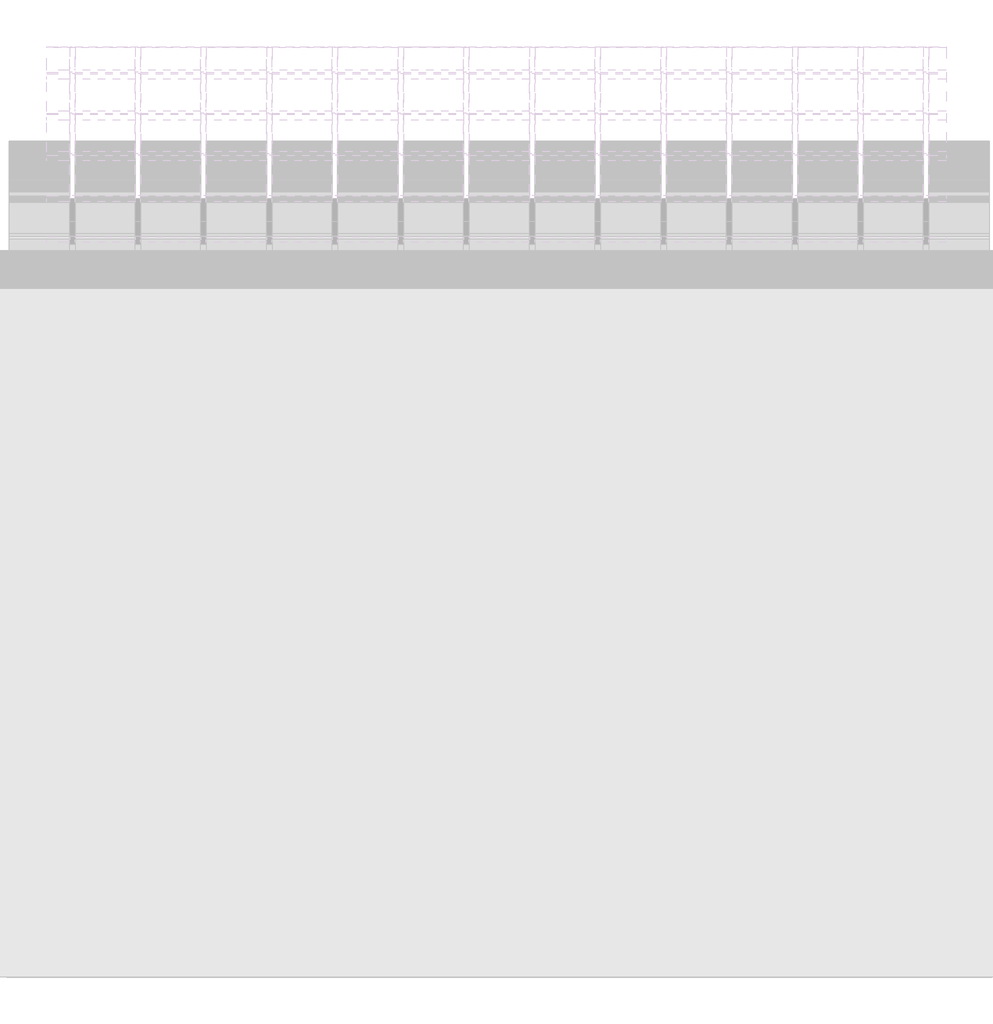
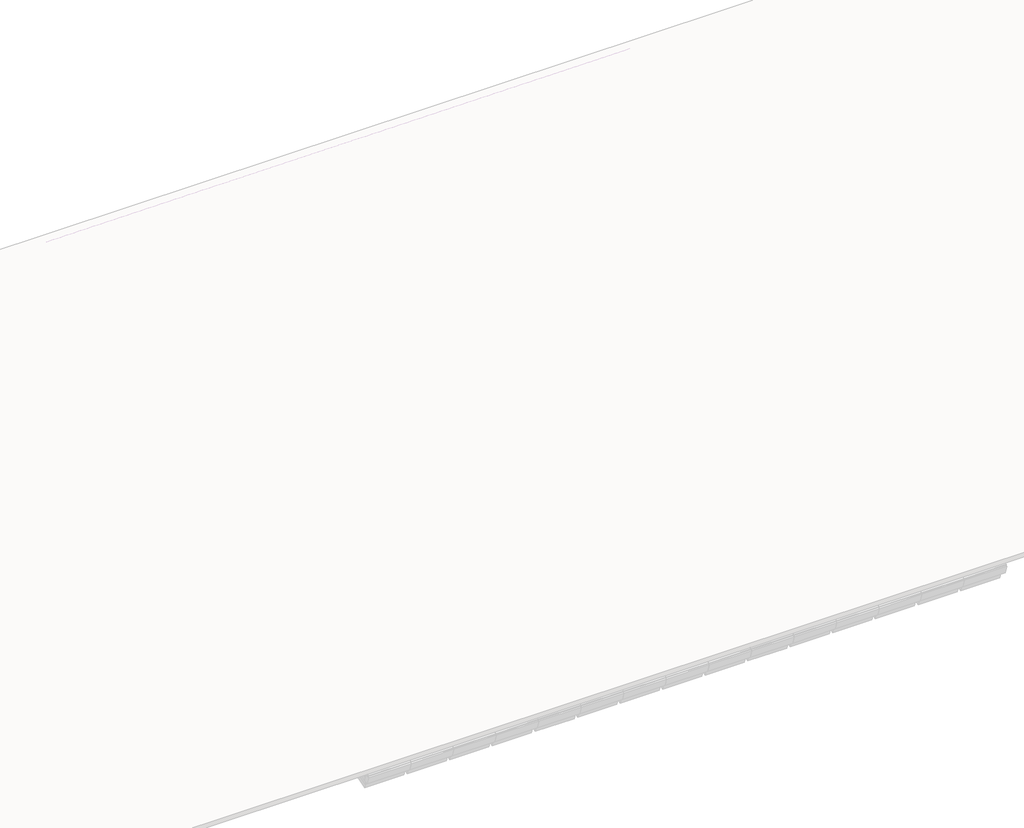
# One storey, part 26 of 57: 85 members, 39 plates.
"""IFC4 building model written with IfcOpenShell, lengths in millimetres."""

from ifc_helpers import new_model, si_unit, origin, place, context, project, spatial, transform, mapped, element, save
from components import rectangular_mullion_59984080, rectangular_mullion_2d2423ea, rectangular_mullion_caibro_e4384bba, rectangular_mullion_caibro_0993a3cf, rectangular_mullion_caibro_9bd7bc61, empty_system_panel_vazio_178faf58, empty_system_panel_vazio_2c78850d

model = new_model("IFC4")

# Units and contexts
model_context = context("Model", 3, world=origin())
ifc_project = project(units=[si_unit("LENGTHUNIT", "METRE", prefix="MILLI")], contexts=[model_context])

# Site, building, storey
site = spatial("IfcSite", under=ifc_project)
building = spatial("IfcBuilding", under=site)
storey = spatial("IfcBuildingStorey", under=building, Name="Nível 2", Elevation=4100.0)

# Members
placement = place(None, origin())
rectangular_mullion_shape = rectangular_mullion_59984080(model_context)
element("IfcMember", 1, ObjectType="Rectangular Mullion : Ripa", at=placement, inside=storey, context=model_context, shape_type="MappedRepresentation", body=[
    mapped(rectangular_mullion_shape, transform((18494.2138321, 8162.5832694, 3598.8241594), x_axis=(0.0, 0.9578262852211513, 0.2873478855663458), y_axis=(0.0, 0.2873478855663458, -0.9578262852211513), z_axis=(-1.0, 0.0, 0.0))),
])
element("IfcMember", 2, ObjectType="Rectangular Mullion : Ripa", at=placement, inside=storey, context=model_context, shape_type="MappedRepresentation", body=[
    mapped(rectangular_mullion_shape, transform((19091.2685885, 8162.5832694, 3598.8241594), x_axis=(0.0, 0.9578262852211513, 0.2873478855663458), y_axis=(0.0, 0.2873478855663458, -0.9578262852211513), z_axis=(-1.0, 0.0, 0.0))),
])
element("IfcMember", 3, ObjectType="Rectangular Mullion : Ripa", at=placement, inside=storey, context=model_context, shape_type="MappedRepresentation", body=[
    mapped(rectangular_mullion_shape, transform((19688.3233449, 8162.5832694, 3598.8241594), x_axis=(0.0, 0.9578262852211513, 0.2873478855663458), y_axis=(0.0, 0.2873478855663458, -0.9578262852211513), z_axis=(-1.0, 0.0, 0.0))),
])
element("IfcMember", 4, ObjectType="Rectangular Mullion : Ripa", at=placement, inside=storey, context=model_context, shape_type="MappedRepresentation", body=[
    mapped(rectangular_mullion_shape, transform((18494.2138321, 8532.7605281, 3709.877337), x_axis=(0.0, 0.9578262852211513, 0.2873478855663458), y_axis=(0.0, 0.2873478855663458, -0.9578262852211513), z_axis=(-1.0, 0.0, 0.0))),
])
element("IfcMember", 5, ObjectType="Rectangular Mullion : Ripa", at=placement, inside=storey, context=model_context, shape_type="MappedRepresentation", body=[
    mapped(rectangular_mullion_shape, transform((19091.2685885, 8532.7605281, 3709.877337), x_axis=(0.0, 0.9578262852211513, 0.2873478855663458), y_axis=(0.0, 0.2873478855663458, -0.9578262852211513), z_axis=(-1.0, 0.0, 0.0))),
])
element("IfcMember", 6, ObjectType="Rectangular Mullion : Ripa", at=placement, inside=storey, context=model_context, shape_type="MappedRepresentation", body=[
    mapped(rectangular_mullion_shape, transform((19688.3233449, 8532.7605281, 3709.877337), x_axis=(0.0, 0.9578262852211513, 0.2873478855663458), y_axis=(0.0, 0.2873478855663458, -0.9578262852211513), z_axis=(-1.0, 0.0, 0.0))),
])
element("IfcMember", 7, ObjectType="Rectangular Mullion : Ripa", at=placement, inside=storey, context=model_context, shape_type="MappedRepresentation", body=[
    mapped(rectangular_mullion_shape, transform((18494.2138321, 8902.9377868, 3820.9305146), x_axis=(0.0, 0.9578262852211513, 0.2873478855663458), y_axis=(0.0, 0.2873478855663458, -0.9578262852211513), z_axis=(-1.0, 0.0, 0.0))),
])
element("IfcMember", 8, ObjectType="Rectangular Mullion : Ripa", at=placement, inside=storey, context=model_context, shape_type="MappedRepresentation", body=[
    mapped(rectangular_mullion_shape, transform((19091.2685885, 8902.9377868, 3820.9305146), x_axis=(0.0, 0.9578262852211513, 0.2873478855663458), y_axis=(0.0, 0.2873478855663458, -0.9578262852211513), z_axis=(-1.0, 0.0, 0.0))),
])
element("IfcMember", 9, ObjectType="Rectangular Mullion : Ripa", at=placement, inside=storey, context=model_context, shape_type="MappedRepresentation", body=[
    mapped(rectangular_mullion_shape, transform((19688.3233449, 8902.9377868, 3820.9305146), x_axis=(0.0, 0.9578262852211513, 0.2873478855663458), y_axis=(0.0, 0.2873478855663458, -0.9578262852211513), z_axis=(-1.0, 0.0, 0.0))),
])
element("IfcMember", 10, ObjectType="Rectangular Mullion : Ripa", at=placement, inside=storey, context=model_context, shape_type="MappedRepresentation", body=[
    mapped(rectangular_mullion_shape, transform((18494.2138321, 9273.1150454, 3931.9836922), x_axis=(0.0, 0.9578262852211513, 0.2873478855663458), y_axis=(0.0, 0.2873478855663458, -0.9578262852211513), z_axis=(-1.0, 0.0, 0.0))),
])
element("IfcMember", 11, ObjectType="Rectangular Mullion : Ripa", at=placement, inside=storey, context=model_context, shape_type="MappedRepresentation", body=[
    mapped(rectangular_mullion_shape, transform((19091.2685885, 9273.1150454, 3931.9836922), x_axis=(0.0, 0.9578262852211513, 0.2873478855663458), y_axis=(0.0, 0.2873478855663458, -0.9578262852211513), z_axis=(-1.0, 0.0, 0.0))),
])
element("IfcMember", 12, ObjectType="Rectangular Mullion : Ripa", at=placement, inside=storey, context=model_context, shape_type="MappedRepresentation", body=[
    mapped(rectangular_mullion_shape, transform((19688.3233449, 9273.1150454, 3931.9836922), x_axis=(0.0, 0.9578262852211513, 0.2873478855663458), y_axis=(0.0, 0.2873478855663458, -0.9578262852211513), z_axis=(-1.0, 0.0, 0.0))),
])
element("IfcMember", 13, ObjectType="Rectangular Mullion : Ripa", at=placement, inside=storey, context=model_context, shape_type="MappedRepresentation", body=[
    mapped(rectangular_mullion_shape, transform((18494.2138321, 9643.2923041, 4043.0368698), x_axis=(0.0, 0.9578262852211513, 0.2873478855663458), y_axis=(0.0, 0.2873478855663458, -0.9578262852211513), z_axis=(-1.0, 0.0, 0.0))),
])
element("IfcMember", 14, ObjectType="Rectangular Mullion : Ripa", at=placement, inside=storey, context=model_context, shape_type="MappedRepresentation", body=[
    mapped(rectangular_mullion_shape, transform((19091.2685885, 9643.2923041, 4043.0368698), x_axis=(0.0, 0.9578262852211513, 0.2873478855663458), y_axis=(0.0, 0.2873478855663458, -0.9578262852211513), z_axis=(-1.0, 0.0, 0.0))),
])
element("IfcMember", 15, ObjectType="Rectangular Mullion : Ripa", at=placement, inside=storey, context=model_context, shape_type="MappedRepresentation", body=[
    mapped(rectangular_mullion_shape, transform((19688.3233449, 9643.2923041, 4043.0368698), x_axis=(0.0, 0.9578262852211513, 0.2873478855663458), y_axis=(0.0, 0.2873478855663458, -0.9578262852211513), z_axis=(-1.0, 0.0, 0.0))),
])
element("IfcMember", 16, ObjectType="Rectangular Mullion : Ripa", at=placement, inside=storey, context=model_context, shape_type="MappedRepresentation", body=[
    mapped(rectangular_mullion_shape, transform((16105.9948064, 10013.4695628, 4154.0900474), x_axis=(0.0, 0.9578262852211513, 0.2873478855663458), y_axis=(0.0, 0.2873478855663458, -0.9578262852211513), z_axis=(-1.0, 0.0, 0.0))),
])
element("IfcMember", 17, ObjectType="Rectangular Mullion : Ripa", at=placement, inside=storey, context=model_context, shape_type="MappedRepresentation", body=[
    mapped(rectangular_mullion_shape, transform((16703.0495628, 10013.4695628, 4154.0900474), x_axis=(0.0, 0.9578262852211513, 0.2873478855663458), y_axis=(0.0, 0.2873478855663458, -0.9578262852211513), z_axis=(-1.0, 0.0, 0.0))),
])
element("IfcMember", 18, ObjectType="Rectangular Mullion : Ripa", at=placement, inside=storey, context=model_context, shape_type="MappedRepresentation", body=[
    mapped(rectangular_mullion_shape, transform((17300.1043192, 10013.4695628, 4154.0900474), x_axis=(0.0, 0.9578262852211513, 0.2873478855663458), y_axis=(0.0, 0.2873478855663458, -0.9578262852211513), z_axis=(-1.0, 0.0, 0.0))),
])
element("IfcMember", 19, ObjectType="Rectangular Mullion : Ripa", at=placement, inside=storey, context=model_context, shape_type="MappedRepresentation", body=[
    mapped(rectangular_mullion_shape, transform((17897.1590756, 10013.4695628, 4154.0900474), x_axis=(0.0, 0.9578262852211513, 0.2873478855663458), y_axis=(0.0, 0.2873478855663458, -0.9578262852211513), z_axis=(-1.0, 0.0, 0.0))),
])
element("IfcMember", 20, ObjectType="Rectangular Mullion : Ripa", at=placement, inside=storey, context=model_context, shape_type="MappedRepresentation", body=[
    mapped(rectangular_mullion_shape, transform((16105.9948064, 10383.6468214, 4265.143225), x_axis=(0.0, 0.9578262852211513, 0.2873478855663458), y_axis=(0.0, 0.2873478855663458, -0.9578262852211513), z_axis=(-1.0, 0.0, 0.0))),
])
element("IfcMember", 21, ObjectType="Rectangular Mullion : Ripa", at=placement, inside=storey, context=model_context, shape_type="MappedRepresentation", body=[
    mapped(rectangular_mullion_shape, transform((16703.0495628, 10383.6468214, 4265.143225), x_axis=(0.0, 0.9578262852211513, 0.2873478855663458), y_axis=(0.0, 0.2873478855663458, -0.9578262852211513), z_axis=(-1.0, 0.0, 0.0))),
])
element("IfcMember", 22, ObjectType="Rectangular Mullion : Ripa", at=placement, inside=storey, context=model_context, shape_type="MappedRepresentation", body=[
    mapped(rectangular_mullion_shape, transform((17300.1043192, 10383.6468214, 4265.143225), x_axis=(0.0, 0.9578262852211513, 0.2873478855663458), y_axis=(0.0, 0.2873478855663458, -0.9578262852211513), z_axis=(-1.0, 0.0, 0.0))),
])
element("IfcMember", 23, ObjectType="Rectangular Mullion : Ripa", at=placement, inside=storey, context=model_context, shape_type="MappedRepresentation", body=[
    mapped(rectangular_mullion_shape, transform((17897.1590756, 10383.6468214, 4265.143225), x_axis=(0.0, 0.9578262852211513, 0.2873478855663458), y_axis=(0.0, 0.2873478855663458, -0.9578262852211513), z_axis=(-1.0, 0.0, 0.0))),
])
element("IfcMember", 24, ObjectType="Rectangular Mullion : Ripa", at=placement, inside=storey, context=model_context, shape_type="MappedRepresentation", body=[
    mapped(rectangular_mullion_shape, transform((16105.9948064, 10753.8240801, 4376.1964026), x_axis=(0.0, 0.9578262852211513, 0.2873478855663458), y_axis=(0.0, 0.2873478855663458, -0.9578262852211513), z_axis=(-1.0, 0.0, 0.0))),
])
element("IfcMember", 25, ObjectType="Rectangular Mullion : Ripa", at=placement, inside=storey, context=model_context, shape_type="MappedRepresentation", body=[
    mapped(rectangular_mullion_shape, transform((16703.0495628, 10753.8240801, 4376.1964026), x_axis=(0.0, 0.9578262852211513, 0.2873478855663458), y_axis=(0.0, 0.2873478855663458, -0.9578262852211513), z_axis=(-1.0, 0.0, 0.0))),
])
element("IfcMember", 26, ObjectType="Rectangular Mullion : Ripa", at=placement, inside=storey, context=model_context, shape_type="MappedRepresentation", body=[
    mapped(rectangular_mullion_shape, transform((17300.1043192, 10753.8240801, 4376.1964026), x_axis=(0.0, 0.9578262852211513, 0.2873478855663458), y_axis=(0.0, 0.2873478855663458, -0.9578262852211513), z_axis=(-1.0, 0.0, 0.0))),
])
element("IfcMember", 27, ObjectType="Rectangular Mullion : Ripa", at=placement, inside=storey, context=model_context, shape_type="MappedRepresentation", body=[
    mapped(rectangular_mullion_shape, transform((17897.1590756, 10753.8240801, 4376.1964026), x_axis=(0.0, 0.9578262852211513, 0.2873478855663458), y_axis=(0.0, 0.2873478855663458, -0.9578262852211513), z_axis=(-1.0, 0.0, 0.0))),
])
element("IfcMember", 28, ObjectType="Rectangular Mullion : Ripa", at=placement, inside=storey, context=model_context, shape_type="MappedRepresentation", body=[
    mapped(rectangular_mullion_shape, transform((16105.9948064, 11124.0013387, 4487.2495802), x_axis=(0.0, 0.9578262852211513, 0.2873478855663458), y_axis=(0.0, 0.2873478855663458, -0.9578262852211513), z_axis=(-1.0, 0.0, 0.0))),
])
element("IfcMember", 29, ObjectType="Rectangular Mullion : Ripa", at=placement, inside=storey, context=model_context, shape_type="MappedRepresentation", body=[
    mapped(rectangular_mullion_shape, transform((16703.0495628, 11124.0013387, 4487.2495802), x_axis=(0.0, 0.9578262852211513, 0.2873478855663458), y_axis=(0.0, 0.2873478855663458, -0.9578262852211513), z_axis=(-1.0, 0.0, 0.0))),
])
element("IfcMember", 30, ObjectType="Rectangular Mullion : Ripa", at=placement, inside=storey, context=model_context, shape_type="MappedRepresentation", body=[
    mapped(rectangular_mullion_shape, transform((17300.1043192, 11124.0013387, 4487.2495802), x_axis=(0.0, 0.9578262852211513, 0.2873478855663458), y_axis=(0.0, 0.2873478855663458, -0.9578262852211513), z_axis=(-1.0, 0.0, 0.0))),
])
element("IfcMember", 31, ObjectType="Rectangular Mullion : Ripa", at=placement, inside=storey, context=model_context, shape_type="MappedRepresentation", body=[
    mapped(rectangular_mullion_shape, transform((17897.1590756, 11124.0013387, 4487.2495802), x_axis=(0.0, 0.9578262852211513, 0.2873478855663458), y_axis=(0.0, 0.2873478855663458, -0.9578262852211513), z_axis=(-1.0, 0.0, 0.0))),
])
element("IfcMember", 32, ObjectType="Rectangular Mullion : Ripa", at=placement, inside=storey, context=model_context, shape_type="MappedRepresentation", body=[
    mapped(rectangular_mullion_shape, transform((16105.9948064, 11494.1785974, 4598.3027578), x_axis=(0.0, 0.9578262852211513, 0.2873478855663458), y_axis=(0.0, 0.2873478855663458, -0.9578262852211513), z_axis=(-1.0, 0.0, 0.0))),
])
element("IfcMember", 33, ObjectType="Rectangular Mullion : Ripa", at=placement, inside=storey, context=model_context, shape_type="MappedRepresentation", body=[
    mapped(rectangular_mullion_shape, transform((16703.0495628, 11494.1785974, 4598.3027578), x_axis=(0.0, 0.9578262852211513, 0.2873478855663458), y_axis=(0.0, 0.2873478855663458, -0.9578262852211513), z_axis=(-1.0, 0.0, 0.0))),
])
element("IfcMember", 34, ObjectType="Rectangular Mullion : Ripa", at=placement, inside=storey, context=model_context, shape_type="MappedRepresentation", body=[
    mapped(rectangular_mullion_shape, transform((17300.1043192, 11494.1785974, 4598.3027578), x_axis=(0.0, 0.9578262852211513, 0.2873478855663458), y_axis=(0.0, 0.2873478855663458, -0.9578262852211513), z_axis=(-1.0, 0.0, 0.0))),
])
element("IfcMember", 35, ObjectType="Rectangular Mullion : Ripa", at=placement, inside=storey, context=model_context, shape_type="MappedRepresentation", body=[
    mapped(rectangular_mullion_shape, transform((16105.9948064, 11864.3558561, 4709.3559354), x_axis=(0.0, 0.9578262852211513, 0.2873478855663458), y_axis=(0.0, 0.2873478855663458, -0.9578262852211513), z_axis=(-1.0, 0.0, 0.0))),
])
element("IfcMember", 36, ObjectType="Rectangular Mullion : Ripa", at=placement, inside=storey, context=model_context, shape_type="MappedRepresentation", body=[
    mapped(rectangular_mullion_shape, transform((16703.0495628, 11864.3558561, 4709.3559354), x_axis=(0.0, 0.9578262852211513, 0.2873478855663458), y_axis=(0.0, 0.2873478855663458, -0.9578262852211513), z_axis=(-1.0, 0.0, 0.0))),
])
rectangular_mullion_2_shape = rectangular_mullion_2d2423ea(model_context)
element("IfcMember", 37, ObjectType="Rectangular Mullion : Terça", at=placement, inside=storey, context=model_context, shape_type="MappedRepresentation", body=[
    mapped(rectangular_mullion_2_shape, transform((18494.2138321, 9159.0196393, 3835.1132313), x_axis=(0.0, 0.9578262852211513, 0.2873478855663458), y_axis=(0.0, 0.2873478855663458, -0.9578262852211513), z_axis=(-1.0, 0.0, 0.0))),
])
element("IfcMember", 38, ObjectType="Rectangular Mullion : Terça", at=placement, inside=storey, context=model_context, shape_type="MappedRepresentation", body=[
    mapped(rectangular_mullion_2_shape, transform((19091.2685885, 9159.0196393, 3835.1132313), x_axis=(0.0, 0.9578262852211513, 0.2873478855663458), y_axis=(0.0, 0.2873478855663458, -0.9578262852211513), z_axis=(-1.0, 0.0, 0.0))),
])
element("IfcMember", 39, ObjectType="Rectangular Mullion : Terça", at=placement, inside=storey, context=model_context, shape_type="MappedRepresentation", body=[
    mapped(rectangular_mullion_2_shape, transform((19688.3233449, 9159.0196393, 3835.1132313), x_axis=(0.0, 0.9578262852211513, 0.2873478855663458), y_axis=(0.0, 0.2873478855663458, -0.9578262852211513), z_axis=(-1.0, 0.0, 0.0))),
])
element("IfcMember", 40, ObjectType="Rectangular Mullion : Terça", at=placement, inside=storey, context=model_context, shape_type="MappedRepresentation", body=[
    mapped(rectangular_mullion_2_shape, transform((16105.9948064, 11285.144311, 4472.9506328), x_axis=(0.0, 0.9578262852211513, 0.2873478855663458), y_axis=(0.0, 0.2873478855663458, -0.9578262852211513), z_axis=(-1.0, 0.0, 0.0))),
])
element("IfcMember", 41, ObjectType="Rectangular Mullion : Terça", at=placement, inside=storey, context=model_context, shape_type="MappedRepresentation", body=[
    mapped(rectangular_mullion_2_shape, transform((16703.0495628, 11285.144311, 4472.9506328), x_axis=(0.0, 0.9578262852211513, 0.2873478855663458), y_axis=(0.0, 0.2873478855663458, -0.9578262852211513), z_axis=(-1.0, 0.0, 0.0))),
])
rectangular_mullion_caibro_shape = rectangular_mullion_caibro_e4384bba(model_context)
element("IfcMember", 42, ObjectType="Rectangular Mullion : Caibro", at=placement, inside=storey, context=model_context, shape_type="MappedRepresentation", body=[
    mapped(rectangular_mullion_caibro_shape, transform((16080.9948064, 10013.4695628, 4154.0900474), x_axis=(1.0, 0.0, 0.0), y_axis=(0.0, 0.28734788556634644, -0.9578262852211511), z_axis=(0.0, 0.957826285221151, 0.2873478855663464))),
])
element("IfcMember", 43, ObjectType="Rectangular Mullion : Caibro", at=placement, inside=storey, context=model_context, shape_type="MappedRepresentation", body=[
    mapped(rectangular_mullion_caibro_shape, transform((16080.9948064, 10383.6468214, 4265.143225), x_axis=(1.0, 0.0, 0.0), y_axis=(0.0, 0.28734788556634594, -0.9578262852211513), z_axis=(0.0, 0.9578262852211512, 0.2873478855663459))),
])
element("IfcMember", 44, ObjectType="Rectangular Mullion : Caibro", at=placement, inside=storey, context=model_context, shape_type="MappedRepresentation", body=[
    mapped(rectangular_mullion_caibro_shape, transform((16080.9948064, 10753.8240801, 4376.1964026), x_axis=(1.0, 0.0, 0.0), y_axis=(0.0, 0.28734788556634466, -0.9578262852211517), z_axis=(0.0, 0.9578262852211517, 0.28734788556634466))),
])
element("IfcMember", 45, ObjectType="Rectangular Mullion : Caibro", at=placement, inside=storey, context=model_context, shape_type="MappedRepresentation", body=[
    mapped(rectangular_mullion_caibro_shape, transform((16080.9948064, 11124.0013387, 4487.2495802), x_axis=(1.0, 0.0, 0.0), y_axis=(0.0, 0.2873478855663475, -0.9578262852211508), z_axis=(0.0, 0.9578262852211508, 0.2873478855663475))),
])
element("IfcMember", 46, ObjectType="Rectangular Mullion : Caibro", at=placement, inside=storey, context=model_context, shape_type="MappedRepresentation", body=[
    mapped(rectangular_mullion_caibro_shape, transform((16080.9948064, 11494.1785974, 4598.3027578), x_axis=(1.0, 0.0, 0.0), y_axis=(0.0, 0.28734788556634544, -0.9578262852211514), z_axis=(0.0, 0.9578262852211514, 0.28734788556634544))),
])
element("IfcMember", 47, ObjectType="Rectangular Mullion : Caibro", at=placement, inside=storey, context=model_context, shape_type="MappedRepresentation", body=[
    mapped(rectangular_mullion_caibro_shape, transform((16080.9948064, 11864.3558561, 4709.3559354), x_axis=(1.0, 0.0, 0.0), y_axis=(0.0, 0.28734788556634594, -0.9578262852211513), z_axis=(0.0, 0.9578262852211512, 0.2873478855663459))),
])
element("IfcMember", 48, ObjectType="Rectangular Mullion : Caibro", at=placement, inside=storey, context=model_context, shape_type="MappedRepresentation", body=[
    mapped(rectangular_mullion_caibro_shape, transform((16678.0495628, 10013.4695628, 4154.0900474), x_axis=(1.0, 0.0, 0.0), y_axis=(0.0, 0.287347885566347, -0.9578262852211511), z_axis=(0.0, 0.9578262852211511, 0.287347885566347))),
])
element("IfcMember", 49, ObjectType="Rectangular Mullion : Caibro", at=placement, inside=storey, context=model_context, shape_type="MappedRepresentation", body=[
    mapped(rectangular_mullion_caibro_shape, transform((16678.0495628, 10383.6468214, 4265.143225), x_axis=(1.0, 0.0, 0.0), y_axis=(0.0, 0.28734788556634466, -0.9578262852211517), z_axis=(0.0, 0.9578262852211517, 0.28734788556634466))),
])
element("IfcMember", 50, ObjectType="Rectangular Mullion : Caibro", at=placement, inside=storey, context=model_context, shape_type="MappedRepresentation", body=[
    mapped(rectangular_mullion_caibro_shape, transform((16678.0495628, 10753.8240801, 4376.1964026), x_axis=(1.0, 0.0, 0.0), y_axis=(0.0, 0.28734788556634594, -0.9578262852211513), z_axis=(0.0, 0.9578262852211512, 0.2873478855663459))),
])
element("IfcMember", 51, ObjectType="Rectangular Mullion : Caibro", at=placement, inside=storey, context=model_context, shape_type="MappedRepresentation", body=[
    mapped(rectangular_mullion_caibro_shape, transform((16678.0495628, 11124.0013387, 4487.2495802), x_axis=(1.0, 0.0, 0.0), y_axis=(0.0, 0.28734788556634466, -0.9578262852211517), z_axis=(0.0, 0.9578262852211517, 0.28734788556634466))),
])
element("IfcMember", 52, ObjectType="Rectangular Mullion : Caibro", at=placement, inside=storey, context=model_context, shape_type="MappedRepresentation", body=[
    mapped(rectangular_mullion_caibro_shape, transform((16678.0495628, 11494.1785974, 4598.3027578), x_axis=(1.0, 0.0, 0.0), y_axis=(0.0, 0.287347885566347, -0.9578262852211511), z_axis=(0.0, 0.9578262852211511, 0.287347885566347))),
])
element("IfcMember", 53, ObjectType="Rectangular Mullion : Caibro", at=placement, inside=storey, context=model_context, shape_type="MappedRepresentation", body=[
    mapped(rectangular_mullion_caibro_shape, transform((16678.0495628, 11864.3558561, 4709.3559354), x_axis=(1.0, 0.0, 0.0), y_axis=(0.0, 0.28734788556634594, -0.9578262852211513), z_axis=(0.0, 0.9578262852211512, 0.2873478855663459))),
])
element("IfcMember", 54, ObjectType="Rectangular Mullion : Caibro", at=placement, inside=storey, context=model_context, shape_type="MappedRepresentation", body=[
    mapped(rectangular_mullion_caibro_shape, transform((17275.1043192, 10013.4695628, 4154.0900474), x_axis=(1.0, 0.0, 0.0), y_axis=(0.0, 0.287347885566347, -0.9578262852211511), z_axis=(0.0, 0.9578262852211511, 0.287347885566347))),
])
element("IfcMember", 55, ObjectType="Rectangular Mullion : Caibro", at=placement, inside=storey, context=model_context, shape_type="MappedRepresentation", body=[
    mapped(rectangular_mullion_caibro_shape, transform((17275.1043192, 10383.6468214, 4265.143225), x_axis=(1.0, 0.0, 0.0), y_axis=(0.0, 0.28734788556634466, -0.9578262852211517), z_axis=(0.0, 0.9578262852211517, 0.28734788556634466))),
])
element("IfcMember", 56, ObjectType="Rectangular Mullion : Caibro", at=placement, inside=storey, context=model_context, shape_type="MappedRepresentation", body=[
    mapped(rectangular_mullion_caibro_shape, transform((17275.1043192, 10753.8240801, 4376.1964026), x_axis=(1.0, 0.0, 0.0), y_axis=(0.0, 0.28734788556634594, -0.9578262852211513), z_axis=(0.0, 0.9578262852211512, 0.2873478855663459))),
])
element("IfcMember", 57, ObjectType="Rectangular Mullion : Caibro", at=placement, inside=storey, context=model_context, shape_type="MappedRepresentation", body=[
    mapped(rectangular_mullion_caibro_shape, transform((17275.1043192, 11124.0013387, 4487.2495802), x_axis=(1.0, 0.0, 0.0), y_axis=(0.0, 0.28734788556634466, -0.9578262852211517), z_axis=(0.0, 0.9578262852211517, 0.28734788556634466))),
])
element("IfcMember", 58, ObjectType="Rectangular Mullion : Caibro", at=placement, inside=storey, context=model_context, shape_type="MappedRepresentation", body=[
    mapped(rectangular_mullion_caibro_shape, transform((17275.1043192, 11494.1785974, 4598.3027578), x_axis=(1.0, 0.0, 0.0), y_axis=(0.0, 0.287347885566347, -0.9578262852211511), z_axis=(0.0, 0.9578262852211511, 0.287347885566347))),
])
element("IfcMember", 59, ObjectType="Rectangular Mullion : Caibro", at=placement, inside=storey, context=model_context, shape_type="MappedRepresentation", body=[
    mapped(rectangular_mullion_caibro_shape, transform((17275.1043192, 11864.3558561, 4709.3559354), x_axis=(1.0, 0.0, 0.0), y_axis=(0.0, 0.28734788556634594, -0.9578262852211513), z_axis=(0.0, 0.9578262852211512, 0.2873478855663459))),
])
element("IfcMember", 60, ObjectType="Rectangular Mullion : Caibro", at=placement, inside=storey, context=model_context, shape_type="MappedRepresentation", body=[
    mapped(rectangular_mullion_caibro_shape, transform((17872.1590756, 10013.4695628, 4154.0900474), x_axis=(1.0, 0.0, 0.0), y_axis=(0.0, 0.287347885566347, -0.9578262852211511), z_axis=(0.0, 0.9578262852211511, 0.287347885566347))),
])
element("IfcMember", 61, ObjectType="Rectangular Mullion : Caibro", at=placement, inside=storey, context=model_context, shape_type="MappedRepresentation", body=[
    mapped(rectangular_mullion_caibro_shape, transform((17872.1590756, 10383.6468214, 4265.143225), x_axis=(1.0, 0.0, 0.0), y_axis=(0.0, 0.28734788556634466, -0.9578262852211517), z_axis=(0.0, 0.9578262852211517, 0.28734788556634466))),
])
element("IfcMember", 62, ObjectType="Rectangular Mullion : Caibro", at=placement, inside=storey, context=model_context, shape_type="MappedRepresentation", body=[
    mapped(rectangular_mullion_caibro_shape, transform((17872.1590756, 10753.8240801, 4376.1964026), x_axis=(1.0, 0.0, 0.0), y_axis=(0.0, 0.28734788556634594, -0.9578262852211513), z_axis=(0.0, 0.9578262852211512, 0.2873478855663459))),
])
element("IfcMember", 63, ObjectType="Rectangular Mullion : Caibro", at=placement, inside=storey, context=model_context, shape_type="MappedRepresentation", body=[
    mapped(rectangular_mullion_caibro_shape, transform((17872.1590756, 11124.0013387, 4487.2495802), x_axis=(1.0, 0.0, 0.0), y_axis=(0.0, 0.28734788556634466, -0.9578262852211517), z_axis=(0.0, 0.9578262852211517, 0.28734788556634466))),
])
element("IfcMember", 64, ObjectType="Rectangular Mullion : Caibro", at=placement, inside=storey, context=model_context, shape_type="MappedRepresentation", body=[
    mapped(rectangular_mullion_caibro_shape, transform((17872.1590756, 11494.1785974, 4598.3027578), x_axis=(1.0, 0.0, 0.0), y_axis=(0.0, 0.287347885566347, -0.9578262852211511), z_axis=(0.0, 0.9578262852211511, 0.287347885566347))),
])
element("IfcMember", 65, ObjectType="Rectangular Mullion : Caibro", at=placement, inside=storey, context=model_context, shape_type="MappedRepresentation", body=[
    mapped(rectangular_mullion_caibro_shape, transform((17872.1590756, 11864.3558561, 4709.3559354), x_axis=(1.0, 0.0, 0.0), y_axis=(0.0, 0.28734788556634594, -0.9578262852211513), z_axis=(0.0, 0.9578262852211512, 0.2873478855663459))),
])
element("IfcMember", 66, ObjectType="Rectangular Mullion : Caibro", at=placement, inside=storey, context=model_context, shape_type="MappedRepresentation", body=[
    mapped(rectangular_mullion_caibro_shape, transform((18469.2138321, 8162.5832694, 3598.8241594), x_axis=(1.0, 0.0, 0.0), y_axis=(0.0, 0.28734788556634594, -0.9578262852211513), z_axis=(0.0, 0.9578262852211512, 0.2873478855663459))),
])
element("IfcMember", 67, ObjectType="Rectangular Mullion : Caibro", at=placement, inside=storey, context=model_context, shape_type="MappedRepresentation", body=[
    mapped(rectangular_mullion_caibro_shape, transform((18469.2138321, 8532.7605281, 3709.877337), x_axis=(1.0, 0.0, 0.0), y_axis=(0.0, 0.2873478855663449, -0.9578262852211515), z_axis=(0.0, 0.9578262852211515, 0.2873478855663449))),
])
element("IfcMember", 68, ObjectType="Rectangular Mullion : Caibro", at=placement, inside=storey, context=model_context, shape_type="MappedRepresentation", body=[
    mapped(rectangular_mullion_caibro_shape, transform((18469.2138321, 8902.9377868, 3820.9305146), x_axis=(1.0, 0.0, 0.0), y_axis=(0.0, 0.2873478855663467, -0.9578262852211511), z_axis=(0.0, 0.9578262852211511, 0.2873478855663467))),
])
element("IfcMember", 69, ObjectType="Rectangular Mullion : Caibro", at=placement, inside=storey, context=model_context, shape_type="MappedRepresentation", body=[
    mapped(rectangular_mullion_caibro_shape, transform((18469.2138321, 9273.1150454, 3931.9836922), x_axis=(1.0, 0.0, 0.0), y_axis=(0.0, 0.2873478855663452, -0.9578262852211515), z_axis=(0.0, 0.9578262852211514, 0.28734788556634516))),
])
element("IfcMember", 70, ObjectType="Rectangular Mullion : Caibro", at=placement, inside=storey, context=model_context, shape_type="MappedRepresentation", body=[
    mapped(rectangular_mullion_caibro_shape, transform((18469.2138321, 9643.2923041, 4043.0368698), x_axis=(1.0, 0.0, 0.0), y_axis=(0.0, 0.2873478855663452, -0.9578262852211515), z_axis=(0.0, 0.9578262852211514, 0.28734788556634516))),
])
element("IfcMember", 71, ObjectType="Rectangular Mullion : Caibro", at=placement, inside=storey, context=model_context, shape_type="MappedRepresentation", body=[
    mapped(rectangular_mullion_caibro_shape, transform((19066.2685885, 8162.5832694, 3598.8241594), x_axis=(1.0, 0.0, 0.0), y_axis=(0.0, 0.28734788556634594, -0.9578262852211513), z_axis=(0.0, 0.9578262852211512, 0.2873478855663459))),
])
element("IfcMember", 72, ObjectType="Rectangular Mullion : Caibro", at=placement, inside=storey, context=model_context, shape_type="MappedRepresentation", body=[
    mapped(rectangular_mullion_caibro_shape, transform((19066.2685885, 8532.7605281, 3709.877337), x_axis=(1.0, 0.0, 0.0), y_axis=(0.0, 0.2873478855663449, -0.9578262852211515), z_axis=(0.0, 0.9578262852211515, 0.2873478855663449))),
])
element("IfcMember", 73, ObjectType="Rectangular Mullion : Caibro", at=placement, inside=storey, context=model_context, shape_type="MappedRepresentation", body=[
    mapped(rectangular_mullion_caibro_shape, transform((19066.2685885, 8902.9377868, 3820.9305146), x_axis=(1.0, 0.0, 0.0), y_axis=(0.0, 0.2873478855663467, -0.9578262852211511), z_axis=(0.0, 0.9578262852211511, 0.2873478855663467))),
])
element("IfcMember", 74, ObjectType="Rectangular Mullion : Caibro", at=placement, inside=storey, context=model_context, shape_type="MappedRepresentation", body=[
    mapped(rectangular_mullion_caibro_shape, transform((19066.2685885, 9273.1150454, 3931.9836922), x_axis=(1.0, 0.0, 0.0), y_axis=(0.0, 0.2873478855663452, -0.9578262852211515), z_axis=(0.0, 0.9578262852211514, 0.28734788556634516))),
])
element("IfcMember", 75, ObjectType="Rectangular Mullion : Caibro", at=placement, inside=storey, context=model_context, shape_type="MappedRepresentation", body=[
    mapped(rectangular_mullion_caibro_shape, transform((19066.2685885, 9643.2923041, 4043.0368698), x_axis=(1.0, 0.0, 0.0), y_axis=(0.0, 0.2873478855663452, -0.9578262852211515), z_axis=(0.0, 0.9578262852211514, 0.28734788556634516))),
])
element("IfcMember", 76, ObjectType="Rectangular Mullion : Caibro", at=placement, inside=storey, context=model_context, shape_type="MappedRepresentation", body=[
    mapped(rectangular_mullion_caibro_shape, transform((19663.3233449, 8162.5832694, 3598.8241594), x_axis=(1.0, 0.0, 0.0), y_axis=(0.0, 0.28734788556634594, -0.9578262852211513), z_axis=(0.0, 0.9578262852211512, 0.2873478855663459))),
])
element("IfcMember", 77, ObjectType="Rectangular Mullion : Caibro", at=placement, inside=storey, context=model_context, shape_type="MappedRepresentation", body=[
    mapped(rectangular_mullion_caibro_shape, transform((19663.3233449, 8532.7605281, 3709.877337), x_axis=(1.0, 0.0, 0.0), y_axis=(0.0, 0.2873478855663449, -0.9578262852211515), z_axis=(0.0, 0.9578262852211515, 0.2873478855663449))),
])
element("IfcMember", 78, ObjectType="Rectangular Mullion : Caibro", at=placement, inside=storey, context=model_context, shape_type="MappedRepresentation", body=[
    mapped(rectangular_mullion_caibro_shape, transform((19663.3233449, 8902.9377868, 3820.9305146), x_axis=(1.0, 0.0, 0.0), y_axis=(0.0, 0.2873478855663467, -0.9578262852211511), z_axis=(0.0, 0.9578262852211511, 0.2873478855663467))),
])
element("IfcMember", 79, ObjectType="Rectangular Mullion : Caibro", at=placement, inside=storey, context=model_context, shape_type="MappedRepresentation", body=[
    mapped(rectangular_mullion_caibro_shape, transform((19663.3233449, 9273.1150454, 3931.9836922), x_axis=(1.0, 0.0, 0.0), y_axis=(0.0, 0.2873478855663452, -0.9578262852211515), z_axis=(0.0, 0.9578262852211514, 0.28734788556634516))),
])
element("IfcMember", 80, ObjectType="Rectangular Mullion : Caibro", at=placement, inside=storey, context=model_context, shape_type="MappedRepresentation", body=[
    mapped(rectangular_mullion_caibro_shape, transform((19663.3233449, 9643.2923041, 4043.0368698), x_axis=(1.0, 0.0, 0.0), y_axis=(0.0, 0.2873478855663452, -0.9578262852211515), z_axis=(0.0, 0.9578262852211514, 0.28734788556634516))),
])
rectangular_mullion_caibro_2_shape = rectangular_mullion_caibro_0993a3cf(model_context)
element("IfcMember", 81, ObjectType="Rectangular Mullion : Caibro", at=placement, inside=storey, context=model_context, shape_type="MappedRepresentation", body=[
    mapped(rectangular_mullion_caibro_2_shape, transform((18469.2138321, 9159.0196393, 3835.1132313), x_axis=(1.0, 0.0, 0.0), y_axis=(0.0, 0.2873478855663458, -0.9578262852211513), z_axis=(0.0, 0.9578262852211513, 0.2873478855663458))),
])
element("IfcMember", 82, ObjectType="Rectangular Mullion : Caibro", at=placement, inside=storey, context=model_context, shape_type="MappedRepresentation", body=[
    mapped(rectangular_mullion_caibro_2_shape, transform((19066.2685885, 9159.0196393, 3835.1132313), x_axis=(1.0, 0.0, 0.0), y_axis=(0.0, 0.2873478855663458, -0.9578262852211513), z_axis=(0.0, 0.9578262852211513, 0.2873478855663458))),
])
element("IfcMember", 83, ObjectType="Rectangular Mullion : Caibro", at=placement, inside=storey, context=model_context, shape_type="MappedRepresentation", body=[
    mapped(rectangular_mullion_caibro_2_shape, transform((19663.3233449, 9159.0196393, 3835.1132313), x_axis=(1.0, 0.0, 0.0), y_axis=(0.0, 0.2873478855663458, -0.9578262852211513), z_axis=(0.0, 0.9578262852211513, 0.2873478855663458))),
])
rectangular_mullion_caibro_3_shape = rectangular_mullion_caibro_9bd7bc61(model_context)
element("IfcMember", 84, ObjectType="Rectangular Mullion : Caibro", at=placement, inside=storey, context=model_context, shape_type="MappedRepresentation", body=[
    mapped(rectangular_mullion_caibro_3_shape, transform((16080.9948064, 11285.144311, 4472.9506328), x_axis=(1.0, 0.0, 0.0), y_axis=(0.0, 0.28734788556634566, -0.9578262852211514), z_axis=(0.0, 0.9578262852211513, 0.2873478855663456))),
])
element("IfcMember", 85, ObjectType="Rectangular Mullion : Caibro", at=placement, inside=storey, context=model_context, shape_type="MappedRepresentation", body=[
    mapped(rectangular_mullion_caibro_3_shape, transform((16678.0495628, 11285.144311, 4472.9506328), x_axis=(1.0, 0.0, 0.0), y_axis=(0.0, 0.28734788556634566, -0.9578262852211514), z_axis=(0.0, 0.9578262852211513, 0.2873478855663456))),
])

# Plates
empty_system_panel_vazio_shape = empty_system_panel_vazio_178faf58(model_context)
element("IfcPlate", 86, ObjectType="Empty System Panel : Vazio", at=placement, inside=storey, context=model_context, shape_type="MappedRepresentation", body=[
    mapped(empty_system_panel_vazio_shape, transform((19364.7959667, 8162.5832694, 3598.8241594), x_axis=(1.0, 0.0, 0.0), y_axis=(0.0, 0.2873478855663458, -0.9578262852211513), z_axis=(0.0, 0.9578262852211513, 0.2873478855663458))),
])
element("IfcPlate", 87, ObjectType="Empty System Panel : Vazio", at=placement, inside=storey, context=model_context, shape_type="MappedRepresentation", body=[
    mapped(empty_system_panel_vazio_shape, transform((19961.8507231, 8162.5832694, 3598.8241594), x_axis=(1.0, 0.0, 0.0), y_axis=(0.0, 0.2873478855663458, -0.9578262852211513), z_axis=(0.0, 0.9578262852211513, 0.2873478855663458))),
])
element("IfcPlate", 88, ObjectType="Empty System Panel : Vazio", at=placement, inside=storey, context=model_context, shape_type="MappedRepresentation", body=[
    mapped(empty_system_panel_vazio_shape, transform((19364.7959667, 8532.7605281, 3709.877337), x_axis=(1.0, 0.0, 0.0), y_axis=(0.0, 0.2873478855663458, -0.9578262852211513), z_axis=(0.0, 0.9578262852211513, 0.2873478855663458))),
])
element("IfcPlate", 89, ObjectType="Empty System Panel : Vazio", at=placement, inside=storey, context=model_context, shape_type="MappedRepresentation", body=[
    mapped(empty_system_panel_vazio_shape, transform((19961.8507231, 8532.7605281, 3709.877337), x_axis=(1.0, 0.0, 0.0), y_axis=(0.0, 0.2873478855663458, -0.9578262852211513), z_axis=(0.0, 0.9578262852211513, 0.2873478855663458))),
])
element("IfcPlate", 90, ObjectType="Empty System Panel : Vazio", at=placement, inside=storey, context=model_context, shape_type="MappedRepresentation", body=[
    mapped(empty_system_panel_vazio_shape, transform((18767.7412103, 8902.9377868, 3820.9305146), x_axis=(1.0, 0.0, 0.0), y_axis=(0.0, 0.2873478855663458, -0.9578262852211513), z_axis=(0.0, 0.9578262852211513, 0.2873478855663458))),
])
element("IfcPlate", 91, ObjectType="Empty System Panel : Vazio", at=placement, inside=storey, context=model_context, shape_type="MappedRepresentation", body=[
    mapped(empty_system_panel_vazio_shape, transform((19364.7959667, 8902.9377868, 3820.9305146), x_axis=(1.0, 0.0, 0.0), y_axis=(0.0, 0.2873478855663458, -0.9578262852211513), z_axis=(0.0, 0.9578262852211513, 0.2873478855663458))),
])
element("IfcPlate", 92, ObjectType="Empty System Panel : Vazio", at=placement, inside=storey, context=model_context, shape_type="MappedRepresentation", body=[
    mapped(empty_system_panel_vazio_shape, transform((19961.8507231, 8902.9377868, 3820.9305146), x_axis=(1.0, 0.0, 0.0), y_axis=(0.0, 0.2873478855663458, -0.9578262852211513), z_axis=(0.0, 0.9578262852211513, 0.2873478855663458))),
])
element("IfcPlate", 93, ObjectType="Empty System Panel : Vazio", at=placement, inside=storey, context=model_context, shape_type="MappedRepresentation", body=[
    mapped(empty_system_panel_vazio_shape, transform((18170.6864538, 9273.1150454, 3931.9836922), x_axis=(1.0, 0.0, 0.0), y_axis=(0.0, 0.2873478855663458, -0.9578262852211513), z_axis=(0.0, 0.9578262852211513, 0.2873478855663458))),
])
element("IfcPlate", 94, ObjectType="Empty System Panel : Vazio", at=placement, inside=storey, context=model_context, shape_type="MappedRepresentation", body=[
    mapped(empty_system_panel_vazio_shape, transform((18767.7412103, 9273.1150454, 3931.9836922), x_axis=(1.0, 0.0, 0.0), y_axis=(0.0, 0.2873478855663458, -0.9578262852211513), z_axis=(0.0, 0.9578262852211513, 0.2873478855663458))),
])
element("IfcPlate", 95, ObjectType="Empty System Panel : Vazio", at=placement, inside=storey, context=model_context, shape_type="MappedRepresentation", body=[
    mapped(empty_system_panel_vazio_shape, transform((19364.7959667, 9273.1150454, 3931.9836922), x_axis=(1.0, 0.0, 0.0), y_axis=(0.0, 0.2873478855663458, -0.9578262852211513), z_axis=(0.0, 0.9578262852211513, 0.2873478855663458))),
])
element("IfcPlate", 96, ObjectType="Empty System Panel : Vazio", at=placement, inside=storey, context=model_context, shape_type="MappedRepresentation", body=[
    mapped(empty_system_panel_vazio_shape, transform((19961.8507231, 9273.1150454, 3931.9836922), x_axis=(1.0, 0.0, 0.0), y_axis=(0.0, 0.2873478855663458, -0.9578262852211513), z_axis=(0.0, 0.9578262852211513, 0.2873478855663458))),
])
element("IfcPlate", 97, ObjectType="Empty System Panel : Vazio", at=placement, inside=storey, context=model_context, shape_type="MappedRepresentation", body=[
    mapped(empty_system_panel_vazio_shape, transform((18170.6864538, 9643.2923041, 4043.0368698), x_axis=(1.0, 0.0, 0.0), y_axis=(0.0, 0.2873478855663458, -0.9578262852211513), z_axis=(0.0, 0.9578262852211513, 0.2873478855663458))),
])
element("IfcPlate", 98, ObjectType="Empty System Panel : Vazio", at=placement, inside=storey, context=model_context, shape_type="MappedRepresentation", body=[
    mapped(empty_system_panel_vazio_shape, transform((18767.7412103, 9643.2923041, 4043.0368698), x_axis=(1.0, 0.0, 0.0), y_axis=(0.0, 0.2873478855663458, -0.9578262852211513), z_axis=(0.0, 0.9578262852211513, 0.2873478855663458))),
])
element("IfcPlate", 99, ObjectType="Empty System Panel : Vazio", at=placement, inside=storey, context=model_context, shape_type="MappedRepresentation", body=[
    mapped(empty_system_panel_vazio_shape, transform((19364.7959667, 9643.2923041, 4043.0368698), x_axis=(1.0, 0.0, 0.0), y_axis=(0.0, 0.2873478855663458, -0.9578262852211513), z_axis=(0.0, 0.9578262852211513, 0.2873478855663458))),
])
element("IfcPlate", 100, ObjectType="Empty System Panel : Vazio", at=placement, inside=storey, context=model_context, shape_type="MappedRepresentation", body=[
    mapped(empty_system_panel_vazio_shape, transform((19961.8507231, 9643.2923041, 4043.0368698), x_axis=(1.0, 0.0, 0.0), y_axis=(0.0, 0.2873478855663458, -0.9578262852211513), z_axis=(0.0, 0.9578262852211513, 0.2873478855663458))),
])
element("IfcPlate", 101, ObjectType="Empty System Panel : Vazio", at=placement, inside=storey, context=model_context, shape_type="MappedRepresentation", body=[
    mapped(empty_system_panel_vazio_shape, transform((16379.5221846, 10013.4695628, 4154.0900474), x_axis=(1.0, 0.0, 0.0), y_axis=(0.0, 0.2873478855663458, -0.9578262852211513), z_axis=(0.0, 0.9578262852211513, 0.2873478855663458))),
])
element("IfcPlate", 102, ObjectType="Empty System Panel : Vazio", at=placement, inside=storey, context=model_context, shape_type="MappedRepresentation", body=[
    mapped(empty_system_panel_vazio_shape, transform((16976.576941, 10013.4695628, 4154.0900474), x_axis=(1.0, 0.0, 0.0), y_axis=(0.0, 0.2873478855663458, -0.9578262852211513), z_axis=(0.0, 0.9578262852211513, 0.2873478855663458))),
])
element("IfcPlate", 103, ObjectType="Empty System Panel : Vazio", at=placement, inside=storey, context=model_context, shape_type="MappedRepresentation", body=[
    mapped(empty_system_panel_vazio_shape, transform((17573.6316974, 10013.4695628, 4154.0900474), x_axis=(1.0, 0.0, 0.0), y_axis=(0.0, 0.2873478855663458, -0.9578262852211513), z_axis=(0.0, 0.9578262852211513, 0.2873478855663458))),
])
element("IfcPlate", 104, ObjectType="Empty System Panel : Vazio", at=placement, inside=storey, context=model_context, shape_type="MappedRepresentation", body=[
    mapped(empty_system_panel_vazio_shape, transform((16379.5221846, 10383.6468214, 4265.143225), x_axis=(1.0, 0.0, 0.0), y_axis=(0.0, 0.2873478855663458, -0.9578262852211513), z_axis=(0.0, 0.9578262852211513, 0.2873478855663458))),
])
element("IfcPlate", 105, ObjectType="Empty System Panel : Vazio", at=placement, inside=storey, context=model_context, shape_type="MappedRepresentation", body=[
    mapped(empty_system_panel_vazio_shape, transform((16976.576941, 10383.6468214, 4265.143225), x_axis=(1.0, 0.0, 0.0), y_axis=(0.0, 0.2873478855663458, -0.9578262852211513), z_axis=(0.0, 0.9578262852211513, 0.2873478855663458))),
])
element("IfcPlate", 106, ObjectType="Empty System Panel : Vazio", at=placement, inside=storey, context=model_context, shape_type="MappedRepresentation", body=[
    mapped(empty_system_panel_vazio_shape, transform((17573.6316974, 10383.6468214, 4265.143225), x_axis=(1.0, 0.0, 0.0), y_axis=(0.0, 0.2873478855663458, -0.9578262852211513), z_axis=(0.0, 0.9578262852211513, 0.2873478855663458))),
])
element("IfcPlate", 107, ObjectType="Empty System Panel : Vazio", at=placement, inside=storey, context=model_context, shape_type="MappedRepresentation", body=[
    mapped(empty_system_panel_vazio_shape, transform((16379.5221846, 10753.8240801, 4376.1964026), x_axis=(1.0, 0.0, 0.0), y_axis=(0.0, 0.2873478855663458, -0.9578262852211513), z_axis=(0.0, 0.9578262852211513, 0.2873478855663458))),
])
element("IfcPlate", 108, ObjectType="Empty System Panel : Vazio", at=placement, inside=storey, context=model_context, shape_type="MappedRepresentation", body=[
    mapped(empty_system_panel_vazio_shape, transform((16976.576941, 10753.8240801, 4376.1964026), x_axis=(1.0, 0.0, 0.0), y_axis=(0.0, 0.2873478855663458, -0.9578262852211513), z_axis=(0.0, 0.9578262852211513, 0.2873478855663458))),
])
element("IfcPlate", 109, ObjectType="Empty System Panel : Vazio", at=placement, inside=storey, context=model_context, shape_type="MappedRepresentation", body=[
    mapped(empty_system_panel_vazio_shape, transform((17573.6316974, 10753.8240801, 4376.1964026), x_axis=(1.0, 0.0, 0.0), y_axis=(0.0, 0.2873478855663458, -0.9578262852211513), z_axis=(0.0, 0.9578262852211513, 0.2873478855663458))),
])
element("IfcPlate", 110, ObjectType="Empty System Panel : Vazio", at=placement, inside=storey, context=model_context, shape_type="MappedRepresentation", body=[
    mapped(empty_system_panel_vazio_shape, transform((16379.5221846, 11124.0013387, 4487.2495802), x_axis=(1.0, 0.0, 0.0), y_axis=(0.0, 0.2873478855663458, -0.9578262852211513), z_axis=(0.0, 0.9578262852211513, 0.2873478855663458))),
])
element("IfcPlate", 111, ObjectType="Empty System Panel : Vazio", at=placement, inside=storey, context=model_context, shape_type="MappedRepresentation", body=[
    mapped(empty_system_panel_vazio_shape, transform((16976.576941, 11124.0013387, 4487.2495802), x_axis=(1.0, 0.0, 0.0), y_axis=(0.0, 0.2873478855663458, -0.9578262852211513), z_axis=(0.0, 0.9578262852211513, 0.2873478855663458))),
])
element("IfcPlate", 112, ObjectType="Empty System Panel : Vazio", at=placement, inside=storey, context=model_context, shape_type="MappedRepresentation", body=[
    mapped(empty_system_panel_vazio_shape, transform((17573.6316974, 11124.0013387, 4487.2495802), x_axis=(1.0, 0.0, 0.0), y_axis=(0.0, 0.2873478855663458, -0.9578262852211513), z_axis=(0.0, 0.9578262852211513, 0.2873478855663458))),
])
element("IfcPlate", 113, ObjectType="Empty System Panel : Vazio", at=placement, inside=storey, context=model_context, shape_type="MappedRepresentation", body=[
    mapped(empty_system_panel_vazio_shape, transform((16379.5221846, 11494.1785974, 4598.3027578), x_axis=(1.0, 0.0, 0.0), y_axis=(0.0, 0.2873478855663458, -0.9578262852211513), z_axis=(0.0, 0.9578262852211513, 0.2873478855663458))),
])
element("IfcPlate", 114, ObjectType="Empty System Panel : Vazio", at=placement, inside=storey, context=model_context, shape_type="MappedRepresentation", body=[
    mapped(empty_system_panel_vazio_shape, transform((16976.576941, 11494.1785974, 4598.3027578), x_axis=(1.0, 0.0, 0.0), y_axis=(0.0, 0.2873478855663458, -0.9578262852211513), z_axis=(0.0, 0.9578262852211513, 0.2873478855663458))),
])
element("IfcPlate", 115, ObjectType="Empty System Panel : Vazio", at=placement, inside=storey, context=model_context, shape_type="MappedRepresentation", body=[
    mapped(empty_system_panel_vazio_shape, transform((17573.6316974, 11494.1785974, 4598.3027578), x_axis=(1.0, 0.0, 0.0), y_axis=(0.0, 0.2873478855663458, -0.9578262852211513), z_axis=(0.0, 0.9578262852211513, 0.2873478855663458))),
])
element("IfcPlate", 116, ObjectType="Empty System Panel : Vazio", at=placement, inside=storey, context=model_context, shape_type="MappedRepresentation", body=[
    mapped(empty_system_panel_vazio_shape, transform((16379.5221846, 11864.3558561, 4709.3559354), x_axis=(1.0, 0.0, 0.0), y_axis=(0.0, 0.2873478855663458, -0.9578262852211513), z_axis=(0.0, 0.9578262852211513, 0.2873478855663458))),
])
element("IfcPlate", 117, ObjectType="Empty System Panel : Vazio", at=placement, inside=storey, context=model_context, shape_type="MappedRepresentation", body=[
    mapped(empty_system_panel_vazio_shape, transform((16976.576941, 11864.3558561, 4709.3559354), x_axis=(1.0, 0.0, 0.0), y_axis=(0.0, 0.2873478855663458, -0.9578262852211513), z_axis=(0.0, 0.9578262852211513, 0.2873478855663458))),
])
element("IfcPlate", 118, ObjectType="Empty System Panel : Vazio", at=placement, inside=storey, context=model_context, shape_type="MappedRepresentation", body=[
    mapped(empty_system_panel_vazio_shape, transform((17573.6316974, 11864.3558561, 4709.3559354), x_axis=(1.0, 0.0, 0.0), y_axis=(0.0, 0.2873478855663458, -0.9578262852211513), z_axis=(0.0, 0.9578262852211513, 0.2873478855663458))),
])
empty_system_panel_vazio_2_shape = empty_system_panel_vazio_2c78850d(model_context)
element("IfcPlate", 119, ObjectType="Empty System Panel : Vazio", at=placement, inside=storey, context=model_context, shape_type="MappedRepresentation", body=[
    mapped(empty_system_panel_vazio_2_shape, transform((18170.6864538, 9187.7544279, 3843.7336679), x_axis=(1.0, 0.0, 0.0), y_axis=(0.0, 0.2873478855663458, -0.9578262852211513), z_axis=(0.0, 0.9578262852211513, 0.2873478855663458))),
])
element("IfcPlate", 120, ObjectType="Empty System Panel : Vazio", at=placement, inside=storey, context=model_context, shape_type="MappedRepresentation", body=[
    mapped(empty_system_panel_vazio_2_shape, transform((18767.7412103, 9187.7544279, 3843.7336679), x_axis=(1.0, 0.0, 0.0), y_axis=(0.0, 0.2873478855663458, -0.9578262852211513), z_axis=(0.0, 0.9578262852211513, 0.2873478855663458))),
])
element("IfcPlate", 121, ObjectType="Empty System Panel : Vazio", at=placement, inside=storey, context=model_context, shape_type="MappedRepresentation", body=[
    mapped(empty_system_panel_vazio_2_shape, transform((19364.7959667, 9187.7544279, 3843.7336679), x_axis=(1.0, 0.0, 0.0), y_axis=(0.0, 0.2873478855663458, -0.9578262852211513), z_axis=(0.0, 0.9578262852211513, 0.2873478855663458))),
])
element("IfcPlate", 122, ObjectType="Empty System Panel : Vazio", at=placement, inside=storey, context=model_context, shape_type="MappedRepresentation", body=[
    mapped(empty_system_panel_vazio_2_shape, transform((19961.8507231, 9187.7544279, 3843.7336679), x_axis=(1.0, 0.0, 0.0), y_axis=(0.0, 0.2873478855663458, -0.9578262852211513), z_axis=(0.0, 0.9578262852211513, 0.2873478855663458))),
])
element("IfcPlate", 123, ObjectType="Empty System Panel : Vazio", at=placement, inside=storey, context=model_context, shape_type="MappedRepresentation", body=[
    mapped(empty_system_panel_vazio_2_shape, transform((16379.5221846, 11313.8790995, 4481.5710693), x_axis=(1.0, 0.0, 0.0), y_axis=(0.0, 0.2873478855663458, -0.9578262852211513), z_axis=(0.0, 0.9578262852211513, 0.2873478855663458))),
])
element("IfcPlate", 124, ObjectType="Empty System Panel : Vazio", at=placement, inside=storey, context=model_context, shape_type="MappedRepresentation", body=[
    mapped(empty_system_panel_vazio_2_shape, transform((16976.576941, 11313.8790995, 4481.5710693), x_axis=(1.0, 0.0, 0.0), y_axis=(0.0, 0.2873478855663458, -0.9578262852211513), z_axis=(0.0, 0.9578262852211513, 0.2873478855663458))),
])

save(model, "model.ifc")
